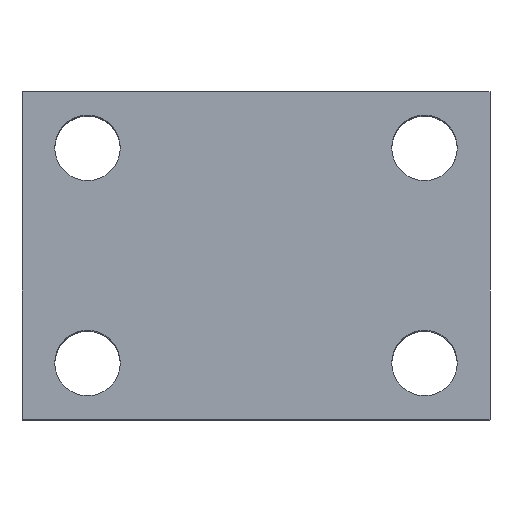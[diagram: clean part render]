
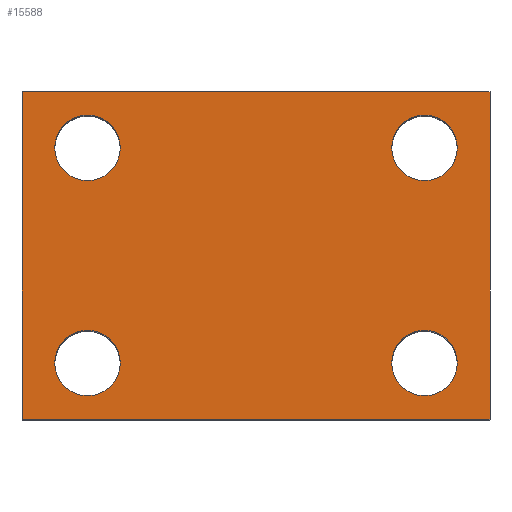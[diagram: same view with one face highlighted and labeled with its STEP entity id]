
A CAD part, top view. The second image highlights one B-rep face of the part: STEP entity #15588.
In plain terms, the highlighted planar face has unit normal (0, 0, 1).
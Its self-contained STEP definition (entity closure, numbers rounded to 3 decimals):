
#226 = LINE ( 'NONE', #1095, #4707 ) ;
#529 = AXIS2_PLACEMENT_3D ( 'NONE', #11370, #2832, #12777 ) ;
#791 = DIRECTION ( 'NONE',  ( -1., 0., 0. ) ) ;
#1095 = CARTESIAN_POINT ( 'NONE',  ( -25., 35., 40. ) ) ;
#1152 = DIRECTION ( 'NONE',  ( 0., 0., -1. ) ) ;
#1344 = AXIS2_PLACEMENT_3D ( 'NONE', #10099, #1442, #11509 ) ;
#1442 = DIRECTION ( 'NONE',  ( 0., 0., -1. ) ) ;
#1490 = CARTESIAN_POINT ( 'NONE',  ( -18., 29., 40. ) ) ;
#1621 = CARTESIAN_POINT ( 'NONE',  ( 21.5, 6., 40. ) ) ;
#1646 = CARTESIAN_POINT ( 'NONE',  ( -18., 6., 40. ) ) ;
#1810 = LINE ( 'NONE', #2338, #9039 ) ;
#2148 = ORIENTED_EDGE ( 'NONE', *, *, #3236, .T. ) ;
#2193 = EDGE_CURVE ( 'NONE', #12716, #15052, #1810, .T. ) ;
#2253 = EDGE_CURVE ( 'NONE', #10607, #6939, #5331, .T. ) ;
#2286 = EDGE_CURVE ( 'NONE', #7612, #2299, #11894, .T. ) ;
#2299 = VERTEX_POINT ( 'NONE', #13403 ) ;
#2311 = EDGE_CURVE ( 'NONE', #10836, #2937, #4870, .T. ) ;
#2338 = CARTESIAN_POINT ( 'NONE',  ( -25., 35., 40. ) ) ;
#2340 = EDGE_CURVE ( 'NONE', #16681, #11903, #15627, .T. ) ;
#2370 = EDGE_CURVE ( 'NONE', #15052, #6148, #11045, .T. ) ;
#2398 = EDGE_CURVE ( 'NONE', #8248, #6148, #15188, .T. ) ;
#2832 = DIRECTION ( 'NONE',  ( 0., 0., -1. ) ) ;
#2937 = VERTEX_POINT ( 'NONE', #1621 ) ;
#2966 = EDGE_LOOP ( 'NONE', ( #5627, #15485 ) ) ;
#2986 = FACE_OUTER_BOUND ( 'NONE', #11866, .T. ) ;
#2995 = CARTESIAN_POINT ( 'NONE',  ( 25., 0., 40. ) ) ;
#3020 = CARTESIAN_POINT ( 'NONE',  ( -25., 35., 40. ) ) ;
#3029 = DIRECTION ( 'NONE',  ( -1., 0., 0. ) ) ;
#3236 = EDGE_CURVE ( 'NONE', #2299, #7612, #9234, .T. ) ;
#3453 = FACE_BOUND ( 'NONE', #8354, .T. ) ;
#3570 = ORIENTED_EDGE ( 'NONE', *, *, #2286, .T. ) ;
#3632 = DIRECTION ( 'NONE',  ( 0., -1., 0. ) ) ;
#3850 = CARTESIAN_POINT ( 'NONE',  ( 25., 35., 40. ) ) ;
#3916 = DIRECTION ( 'NONE',  ( 0., -1., 0. ) ) ;
#3949 = AXIS2_PLACEMENT_3D ( 'NONE', #8069, #17887, #9475 ) ;
#4039 = ORIENTED_EDGE ( 'NONE', *, *, #9923, .T. ) ;
#4307 = DIRECTION ( 'NONE',  ( 1., 0., 0. ) ) ;
#4694 = CARTESIAN_POINT ( 'NONE',  ( -25., 0., 40. ) ) ;
#4707 = VECTOR ( 'NONE', #11184, 1000. ) ;
#4817 = DIRECTION ( 'NONE',  ( -1., 0., 0. ) ) ;
#4870 = CIRCLE ( 'NONE', #15174, 3.5 ) ;
#4961 = DIRECTION ( 'NONE',  ( 0., 0., -1. ) ) ;
#5236 = CARTESIAN_POINT ( 'NONE',  ( 18., 29., 40. ) ) ;
#5331 = CIRCLE ( 'NONE', #12358, 3.5 ) ;
#5378 = CARTESIAN_POINT ( 'NONE',  ( -25., 0., 40. ) ) ;
#5627 = ORIENTED_EDGE ( 'NONE', *, *, #2311, .T. ) ;
#5927 = CARTESIAN_POINT ( 'NONE',  ( 25., 35., 40. ) ) ;
#6148 = VERTEX_POINT ( 'NONE', #2995 ) ;
#6731 = ORIENTED_EDGE ( 'NONE', *, *, #7458, .T. ) ;
#6852 = FACE_BOUND ( 'NONE', #9674, .T. ) ;
#6939 = VERTEX_POINT ( 'NONE', #8401 ) ;
#7315 = VECTOR ( 'NONE', #4307, 1000. ) ;
#7377 = ORIENTED_EDGE ( 'NONE', *, *, #2193, .T. ) ;
#7458 = EDGE_CURVE ( 'NONE', #11903, #16681, #8073, .T. ) ;
#7612 = VERTEX_POINT ( 'NONE', #17487 ) ;
#7654 = CARTESIAN_POINT ( 'NONE',  ( -18., 6., 40. ) ) ;
#7723 = CARTESIAN_POINT ( 'NONE',  ( 14.5, 6., 40. ) ) ;
#8069 = CARTESIAN_POINT ( 'NONE',  ( 18., 6., 40. ) ) ;
#8073 = CIRCLE ( 'NONE', #1344, 3.5 ) ;
#8248 = VERTEX_POINT ( 'NONE', #5927 ) ;
#8354 = EDGE_LOOP ( 'NONE', ( #15711, #4039 ) ) ;
#8401 = CARTESIAN_POINT ( 'NONE',  ( -14.5, 29., 40. ) ) ;
#8669 = ORIENTED_EDGE ( 'NONE', *, *, #2398, .F. ) ;
#9039 = VECTOR ( 'NONE', #3632, 1000. ) ;
#9043 = DIRECTION ( 'NONE',  ( -1., 0., 0. ) ) ;
#9233 = CARTESIAN_POINT ( 'NONE',  ( 14.5, 29., 40. ) ) ;
#9234 = CIRCLE ( 'NONE', #13555, 3.5 ) ;
#9240 = EDGE_LOOP ( 'NONE', ( #3570, #2148 ) ) ;
#9475 = DIRECTION ( 'NONE',  ( -1., 0., 0. ) ) ;
#9674 = EDGE_LOOP ( 'NONE', ( #11334, #6731 ) ) ;
#9923 = EDGE_CURVE ( 'NONE', #6939, #10607, #13300, .T. ) ;
#10006 = ORIENTED_EDGE ( 'NONE', *, *, #2370, .T. ) ;
#10099 = CARTESIAN_POINT ( 'NONE',  ( 18., 29., 40. ) ) ;
#10441 = DIRECTION ( 'NONE',  ( -1., 0., 0. ) ) ;
#10579 = FACE_BOUND ( 'NONE', #2966, .T. ) ;
#10597 = DIRECTION ( 'NONE',  ( 0., 0., -1. ) ) ;
#10602 = VECTOR ( 'NONE', #3916, 1000. ) ;
#10607 = VERTEX_POINT ( 'NONE', #12824 ) ;
#10709 = CARTESIAN_POINT ( 'NONE',  ( 18., 6., 40. ) ) ;
#10836 = VERTEX_POINT ( 'NONE', #7723 ) ;
#11045 = LINE ( 'NONE', #4694, #7315 ) ;
#11184 = DIRECTION ( 'NONE',  ( 1., 0., 0. ) ) ;
#11334 = ORIENTED_EDGE ( 'NONE', *, *, #2340, .T. ) ;
#11370 = CARTESIAN_POINT ( 'NONE',  ( -25., 35., 40. ) ) ;
#11509 = DIRECTION ( 'NONE',  ( -1., 0., 0. ) ) ;
#11543 = DIRECTION ( 'NONE',  ( 0., 0., -1. ) ) ;
#11831 = AXIS2_PLACEMENT_3D ( 'NONE', #1490, #11543, #3029 ) ;
#11866 = EDGE_LOOP ( 'NONE', ( #10006, #8669, #11962, #7377 ) ) ;
#11894 = CIRCLE ( 'NONE', #14243, 3.5 ) ;
#11903 = VERTEX_POINT ( 'NONE', #14835 ) ;
#11962 = ORIENTED_EDGE ( 'NONE', *, *, #12476, .F. ) ;
#12358 = AXIS2_PLACEMENT_3D ( 'NONE', #14112, #14716, #14025 ) ;
#12476 = EDGE_CURVE ( 'NONE', #12716, #8248, #226, .T. ) ;
#12716 = VERTEX_POINT ( 'NONE', #3020 ) ;
#12777 = DIRECTION ( 'NONE',  ( -1., 0., 0. ) ) ;
#12824 = CARTESIAN_POINT ( 'NONE',  ( -21.5, 29., 40. ) ) ;
#13300 = CIRCLE ( 'NONE', #11831, 3.5 ) ;
#13403 = CARTESIAN_POINT ( 'NONE',  ( -14.5, 6., 40. ) ) ;
#13555 = AXIS2_PLACEMENT_3D ( 'NONE', #7654, #17439, #9043 ) ;
#14025 = DIRECTION ( 'NONE',  ( -1., 0., 0. ) ) ;
#14112 = CARTESIAN_POINT ( 'NONE',  ( -18., 29., 40. ) ) ;
#14243 = AXIS2_PLACEMENT_3D ( 'NONE', #1646, #1152, #791 ) ;
#14716 = DIRECTION ( 'NONE',  ( 0., 0., -1. ) ) ;
#14835 = CARTESIAN_POINT ( 'NONE',  ( 21.5, 29., 40. ) ) ;
#14965 = EDGE_CURVE ( 'NONE', #2937, #10836, #18279, .T. ) ;
#15052 = VERTEX_POINT ( 'NONE', #5378 ) ;
#15174 = AXIS2_PLACEMENT_3D ( 'NONE', #10709, #10597, #10441 ) ;
#15188 = LINE ( 'NONE', #3850, #10602 ) ;
#15485 = ORIENTED_EDGE ( 'NONE', *, *, #14965, .T. ) ;
#15588 = ADVANCED_FACE ( 'NONE', ( #3453, #18033, #10579, #6852, #2986 ), #16846, .F. ) ;
#15627 = CIRCLE ( 'NONE', #17035, 3.5 ) ;
#15711 = ORIENTED_EDGE ( 'NONE', *, *, #2253, .T. ) ;
#16681 = VERTEX_POINT ( 'NONE', #9233 ) ;
#16846 = PLANE ( 'NONE',  #529 ) ;
#17035 = AXIS2_PLACEMENT_3D ( 'NONE', #5236, #4961, #4817 ) ;
#17439 = DIRECTION ( 'NONE',  ( 0., 0., -1. ) ) ;
#17487 = CARTESIAN_POINT ( 'NONE',  ( -21.5, 6., 40. ) ) ;
#17887 = DIRECTION ( 'NONE',  ( 0., 0., -1. ) ) ;
#18033 = FACE_BOUND ( 'NONE', #9240, .T. ) ;
#18279 = CIRCLE ( 'NONE', #3949, 3.5 ) ;
